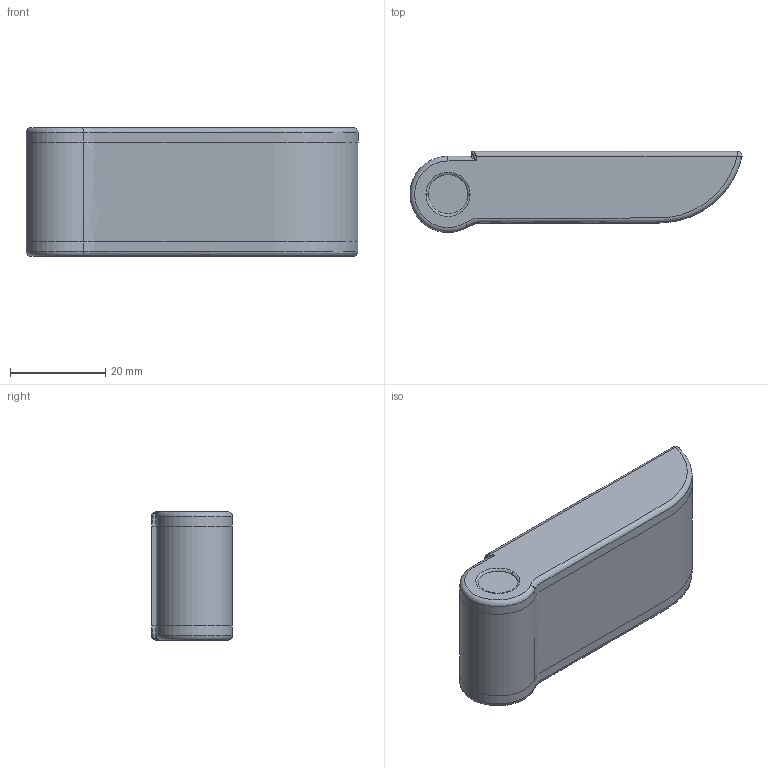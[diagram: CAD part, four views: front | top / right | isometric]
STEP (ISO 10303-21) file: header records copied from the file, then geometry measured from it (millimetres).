
FILE_DESCRIPTION (( 'STEP AP203' ), '1' );
FILE_NAME ('013.100.036.STEP', '2021-03-22T08:34:48', ( '' ), ( '' ), 'SwSTEP 2.0', 'SolidWorks 2018', '' );
FILE_SCHEMA (( 'CONFIG_CONTROL_DESIGN' ));
Length unit declared in the file: millimetre
Products named in the file (4): 013.100.036; 013.000.003C; 013.000.003B
Assembly tree (3 placements, depth 2):
  013.100.036
    013.100.036
    013.000.003C
    013.000.003B
Bounding box: 69.75 x 16.99 x 27 mm (x, y, z)
Volume: 17218.6 mm3; surface area: 14963.9 mm2
Topology: 3 solids, 3 shells, 303 faces, 774 edges, 482 vertices
Faces by surface type: plane 103, cone 94, torus 56, cylinder 33, bspline 13, sphere 4
Entity records: 10921 total; most frequent: CARTESIAN_POINT 3297, ORIENTED_EDGE 1528, DIRECTION 1514, EDGE_CURVE 764, AXIS2_PLACEMENT_3D 592, VERTEX_POINT 482, LINE 330, VECTOR 330
